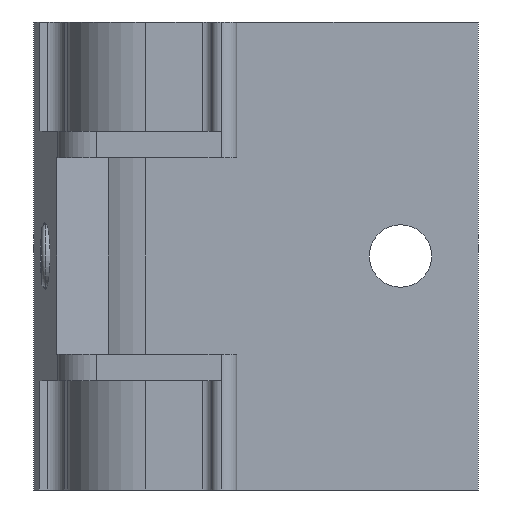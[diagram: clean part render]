
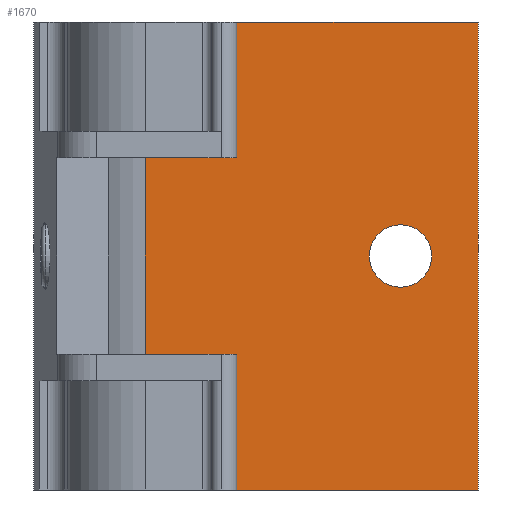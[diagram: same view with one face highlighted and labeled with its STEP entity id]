
A CAD part, left-side view. The second image highlights one B-rep face of the part: STEP entity #1670.
In plain terms, the highlighted planar face has unit normal (-1, 0, 0).
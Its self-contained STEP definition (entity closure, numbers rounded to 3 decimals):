
#43 = CARTESIAN_POINT ( 'NONE',  ( 0., 0., 30. ) ) ;
#53 = ORIENTED_EDGE ( 'NONE', *, *, #1662, .F. ) ;
#58 = PLANE ( 'NONE',  #231 ) ;
#144 = DIRECTION ( 'NONE',  ( 0., 1., 0. ) ) ;
#154 = ORIENTED_EDGE ( 'NONE', *, *, #1955, .T. ) ;
#213 = DIRECTION ( 'NONE',  ( 0., 1., 0. ) ) ;
#231 = AXIS2_PLACEMENT_3D ( 'NONE', #43, #1246, #3012 ) ;
#287 = FACE_BOUND ( 'NONE', #2625, .T. ) ;
#376 = EDGE_LOOP ( 'NONE', ( #154, #1649, #2894, #2680, #2106, #1713, #1631, #53 ) ) ;
#381 = CARTESIAN_POINT ( 'NONE',  ( 0., 0., 12.6 ) ) ;
#466 = DIRECTION ( 'NONE',  ( 1., 0., 0. ) ) ;
#563 = VERTEX_POINT ( 'NONE', #2586 ) ;
#626 = FACE_OUTER_BOUND ( 'NONE', #376, .T. ) ;
#703 = CARTESIAN_POINT ( 'NONE',  ( 0., 11.69, -12.6 ) ) ;
#716 = EDGE_CURVE ( 'NONE', #2949, #1403, #2633, .T. ) ;
#787 = ORIENTED_EDGE ( 'NONE', *, *, #3152, .T. ) ;
#799 = EDGE_CURVE ( 'NONE', #2022, #803, #2903, .T. ) ;
#803 = VERTEX_POINT ( 'NONE', #2192 ) ;
#827 = VERTEX_POINT ( 'NONE', #1021 ) ;
#830 = VERTEX_POINT ( 'NONE', #1517 ) ;
#884 = VECTOR ( 'NONE', #1003, 1000. ) ;
#901 = CARTESIAN_POINT ( 'NONE',  ( 0., -17., 0. ) ) ;
#927 = CARTESIAN_POINT ( 'NONE',  ( 0., 11.69, 12.6 ) ) ;
#1003 = DIRECTION ( 'NONE',  ( 0., 0., -1. ) ) ;
#1021 = CARTESIAN_POINT ( 'NONE',  ( 0., 0., -12.6 ) ) ;
#1037 = VERTEX_POINT ( 'NONE', #1302 ) ;
#1040 = VECTOR ( 'NONE', #1580, 1000. ) ;
#1088 = CARTESIAN_POINT ( 'NONE',  ( 0., 11.69, -12.6 ) ) ;
#1220 = DIRECTION ( 'NONE',  ( 0., 1., 0. ) ) ;
#1246 = DIRECTION ( 'NONE',  ( 1., 0., 0. ) ) ;
#1302 = CARTESIAN_POINT ( 'NONE',  ( 0., -31., 30. ) ) ;
#1326 = EDGE_CURVE ( 'NONE', #1037, #830, #1630, .T. ) ;
#1398 = AXIS2_PLACEMENT_3D ( 'NONE', #3138, #3105, #144 ) ;
#1403 = VERTEX_POINT ( 'NONE', #927 ) ;
#1439 = CARTESIAN_POINT ( 'NONE',  ( 0., -21., 0. ) ) ;
#1470 = LINE ( 'NONE', #1732, #2134 ) ;
#1475 = EDGE_CURVE ( 'NONE', #827, #2949, #1470, .T. ) ;
#1516 = DIRECTION ( 'NONE',  ( 0., 0., -1. ) ) ;
#1517 = CARTESIAN_POINT ( 'NONE',  ( 0., -31., -30. ) ) ;
#1580 = DIRECTION ( 'NONE',  ( 0., -1., 0. ) ) ;
#1601 = LINE ( 'NONE', #3185, #2745 ) ;
#1630 = LINE ( 'NONE', #1867, #2384 ) ;
#1631 = ORIENTED_EDGE ( 'NONE', *, *, #1326, .F. ) ;
#1649 = ORIENTED_EDGE ( 'NONE', *, *, #3195, .T. ) ;
#1662 = EDGE_CURVE ( 'NONE', #1797, #1037, #2768, .T. ) ;
#1670 = ADVANCED_FACE ( 'NONE', ( #287, #626 ), #58, .F. ) ;
#1713 = ORIENTED_EDGE ( 'NONE', *, *, #1883, .T. ) ;
#1732 = CARTESIAN_POINT ( 'NONE',  ( 0., 4.39, -12.6 ) ) ;
#1797 = VERTEX_POINT ( 'NONE', #2563 ) ;
#1831 = VECTOR ( 'NONE', #1948, 1000. ) ;
#1848 = CARTESIAN_POINT ( 'NONE',  ( 0., 0., 30. ) ) ;
#1867 = CARTESIAN_POINT ( 'NONE',  ( 0., -31., 30. ) ) ;
#1883 = EDGE_CURVE ( 'NONE', #563, #830, #2376, .T. ) ;
#1948 = DIRECTION ( 'NONE',  ( 0., 0., 1. ) ) ;
#1955 = EDGE_CURVE ( 'NONE', #1797, #2638, #2840, .T. ) ;
#2019 = CARTESIAN_POINT ( 'NONE',  ( 0., 0., 30. ) ) ;
#2022 = VERTEX_POINT ( 'NONE', #901 ) ;
#2098 = VECTOR ( 'NONE', #2537, 1000. ) ;
#2106 = ORIENTED_EDGE ( 'NONE', *, *, #2892, .T. ) ;
#2134 = VECTOR ( 'NONE', #213, 1000. ) ;
#2192 = CARTESIAN_POINT ( 'NONE',  ( 0., -25., 0. ) ) ;
#2376 = LINE ( 'NONE', #3073, #1040 ) ;
#2384 = VECTOR ( 'NONE', #3131, 1000. ) ;
#2537 = DIRECTION ( 'NONE',  ( 0., -1., 0. ) ) ;
#2549 = CARTESIAN_POINT ( 'NONE',  ( 0., 0., 30. ) ) ;
#2563 = CARTESIAN_POINT ( 'NONE',  ( 0., 0., 30. ) ) ;
#2586 = CARTESIAN_POINT ( 'NONE',  ( 0., 0., -30. ) ) ;
#2610 = VECTOR ( 'NONE', #1516, 1000. ) ;
#2625 = EDGE_LOOP ( 'NONE', ( #3093, #787 ) ) ;
#2633 = LINE ( 'NONE', #703, #1831 ) ;
#2638 = VERTEX_POINT ( 'NONE', #381 ) ;
#2680 = ORIENTED_EDGE ( 'NONE', *, *, #1475, .F. ) ;
#2745 = VECTOR ( 'NONE', #3151, 1000. ) ;
#2768 = LINE ( 'NONE', #2019, #2098 ) ;
#2832 = AXIS2_PLACEMENT_3D ( 'NONE', #1439, #466, #1220 ) ;
#2840 = LINE ( 'NONE', #1848, #884 ) ;
#2892 = EDGE_CURVE ( 'NONE', #827, #563, #3189, .T. ) ;
#2894 = ORIENTED_EDGE ( 'NONE', *, *, #716, .F. ) ;
#2903 = CIRCLE ( 'NONE', #2832, 4. ) ;
#2949 = VERTEX_POINT ( 'NONE', #1088 ) ;
#2958 = CIRCLE ( 'NONE', #1398, 4. ) ;
#3012 = DIRECTION ( 'NONE',  ( 0., 1., 0. ) ) ;
#3073 = CARTESIAN_POINT ( 'NONE',  ( 0., 0., -30. ) ) ;
#3093 = ORIENTED_EDGE ( 'NONE', *, *, #799, .T. ) ;
#3105 = DIRECTION ( 'NONE',  ( 1., 0., 0. ) ) ;
#3131 = DIRECTION ( 'NONE',  ( 0., 0., -1. ) ) ;
#3138 = CARTESIAN_POINT ( 'NONE',  ( 0., -21., 0. ) ) ;
#3151 = DIRECTION ( 'NONE',  ( 0., 1., 0. ) ) ;
#3152 = EDGE_CURVE ( 'NONE', #803, #2022, #2958, .T. ) ;
#3185 = CARTESIAN_POINT ( 'NONE',  ( 0., 4.39, 12.6 ) ) ;
#3189 = LINE ( 'NONE', #2549, #2610 ) ;
#3195 = EDGE_CURVE ( 'NONE', #2638, #1403, #1601, .T. ) ;
